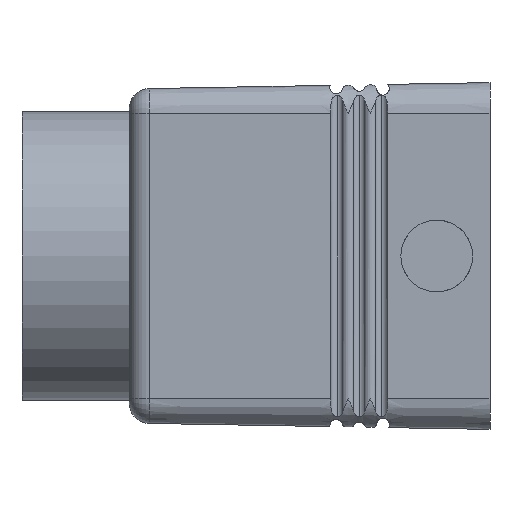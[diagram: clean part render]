
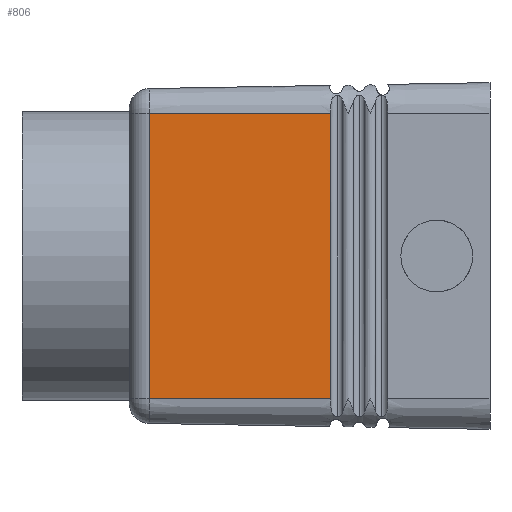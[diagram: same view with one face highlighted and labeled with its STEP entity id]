
A CAD part, left-side view. The second image highlights one B-rep face of the part: STEP entity #806.
In plain terms, the highlighted planar face has unit normal (-1, 0.018, 0).
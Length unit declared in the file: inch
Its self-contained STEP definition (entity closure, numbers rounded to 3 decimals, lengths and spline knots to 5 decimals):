
#179 = EDGE_CURVE ( 'NONE', #180, #4032, #1244, .T. ) ;
#180 = VERTEX_POINT ( 'NONE', #1240 ) ;
#701 = ORIENTED_EDGE ( 'NONE', *, *, #702, .T. ) ;
#702 = EDGE_CURVE ( 'NONE', #907, #180, #2172, .T. ) ;
#703 = ORIENTED_EDGE ( 'NONE', *, *, #179, .T. ) ;
#720 = EDGE_LOOP ( 'NONE', ( #740, #701, #703, #739 ) ) ;
#739 = ORIENTED_EDGE ( 'NONE', *, *, #3943, .T. ) ;
#740 = ORIENTED_EDGE ( 'NONE', *, *, #909, .F. ) ;
#806 = ADVANCED_FACE ( 'NONE', ( #2442 ), #2470, .T. ) ;
#907 = VERTEX_POINT ( 'NONE', #2600 ) ;
#909 = EDGE_CURVE ( 'NONE', #907, #4000, #2631, .T. ) ;
#1240 = CARTESIAN_POINT ( 'NONE',  ( -1.81148, 1.66275, -0.69645 ) ) ;
#1241 = DIRECTION ( 'NONE',  ( -0.017, -1., 0. ) ) ;
#1242 = VECTOR ( 'NONE', #1241, 39.37008 ) ;
#1243 = CARTESIAN_POINT ( 'NONE',  ( -1.8405, 0., -0.69645 ) ) ;
#1244 = LINE ( 'NONE', #1243, #1242 ) ;
#2159 = DIRECTION ( 'NONE',  ( 0., 0., -1. ) ) ;
#2160 = VECTOR ( 'NONE', #2159, 39.37008 ) ;
#2161 = CARTESIAN_POINT ( 'NONE',  ( -1.81148, 1.66275, -0.69645 ) ) ;
#2172 = LINE ( 'NONE', #2161, #2160 ) ;
#2442 = FACE_OUTER_BOUND ( 'NONE', #720, .T. ) ;
#2445 = DIRECTION ( 'NONE',  ( -1., 0.017, 0. ) ) ;
#2446 = CARTESIAN_POINT ( 'NONE',  ( -1.8405, 0., -0.69645 ) ) ;
#2447 = DIRECTION ( 'NONE',  ( -0.017, -1., 0. ) ) ;
#2469 = AXIS2_PLACEMENT_3D ( 'NONE', #2446, #2445, #2447 ) ;
#2470 = PLANE ( 'NONE',  #2469 ) ;
#2600 = CARTESIAN_POINT ( 'NONE',  ( -1.81148, 1.66275, 0.69645 ) ) ;
#2628 = DIRECTION ( 'NONE',  ( -0.017, -1., 0. ) ) ;
#2629 = VECTOR ( 'NONE', #2628, 39.37008 ) ;
#2630 = CARTESIAN_POINT ( 'NONE',  ( -1.8405, 0., 0.69645 ) ) ;
#2631 = LINE ( 'NONE', #2630, #2629 ) ;
#2953 = DIRECTION ( 'NONE',  ( 0., 0., 1. ) ) ;
#2954 = VECTOR ( 'NONE', #2953, 39.37008 ) ;
#2955 = CARTESIAN_POINT ( 'NONE',  ( -1.82693, 0.77731, -0.84645 ) ) ;
#2956 = LINE ( 'NONE', #2955, #2954 ) ;
#3117 = CARTESIAN_POINT ( 'NONE',  ( -1.82693, 0.77731, 0.69645 ) ) ;
#3943 = EDGE_CURVE ( 'NONE', #4032, #4000, #2956, .T. ) ;
#4000 = VERTEX_POINT ( 'NONE', #3117 ) ;
#4032 = VERTEX_POINT ( 'NONE', #4362 ) ;
#4362 = CARTESIAN_POINT ( 'NONE',  ( -1.82693, 0.77731, -0.69645 ) ) ;
